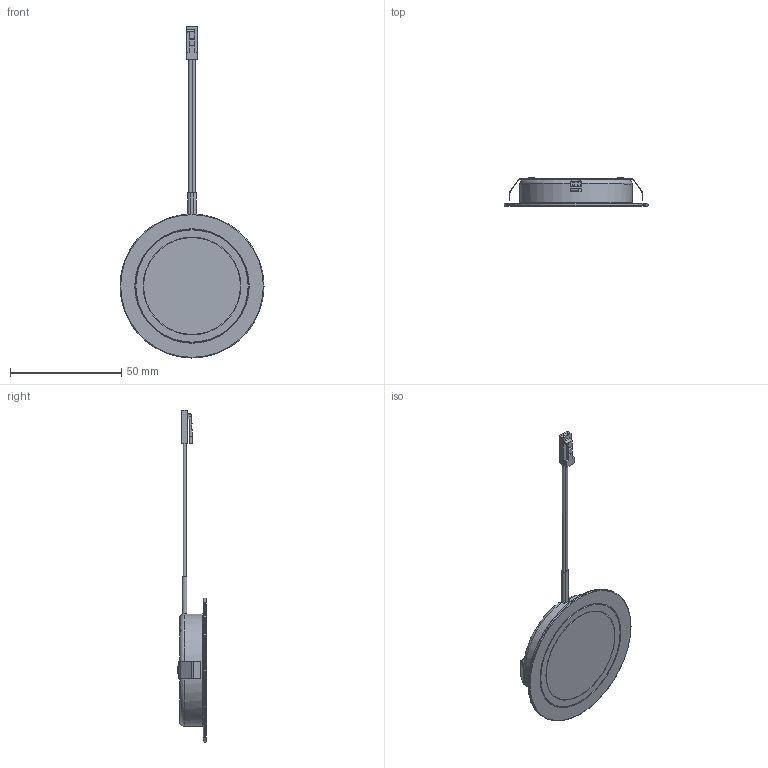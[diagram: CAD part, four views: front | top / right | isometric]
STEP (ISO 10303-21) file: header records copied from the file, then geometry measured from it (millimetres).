
FILE_DESCRIPTION(/* description */ (''),/* implementation_level */ '2;1');
FILE_NAME(/* name */ 'hcl-315_asm.stp',/* time_stamp */ '2019-06-03T08:07:48+02:00',/* author */ (''),/* organization */ (''),/* preprocessor_version */ 'ST-DEVELOPER v16.7',/* originating_system */ 'SIEMENS PLM Software NX 12.0',/* authorisation */ '');
FILE_SCHEMA (('AUTOMOTIVE_DESIGN { 1 0 10303 214 3 1 1 1 }'));
Length unit declared in the file: millimetre
Products named in the file (1): p.sc2314416Cicdy
Bounding box: 64.8 x 12.7 x 149.4 mm (x, y, z)
Volume: 25881.3 mm3; surface area: 10785 mm2
Topology: 1 solids, 1 shells, 101 faces, 258 edges, 171 vertices
Faces by surface type: plane 67, cylinder 26, torus 5, cone 3
Full cylindrical faces by diameter (mm): 1.5 x2, 44 x1, 47.6 x1, 50.6 x1, 64.8 x1
Entity records: 3058 total; most frequent: CARTESIAN_POINT 617, DIRECTION 503, ORIENTED_EDGE 476, EDGE_CURVE 238, AXIS2_PLACEMENT_3D 171, VERTEX_POINT 164, LINE 161, VECTOR 161
